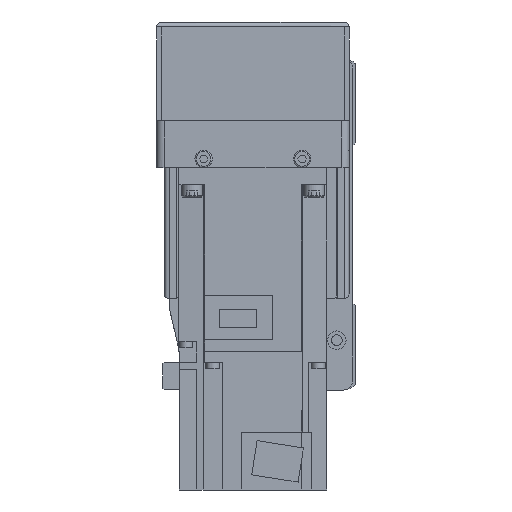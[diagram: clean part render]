
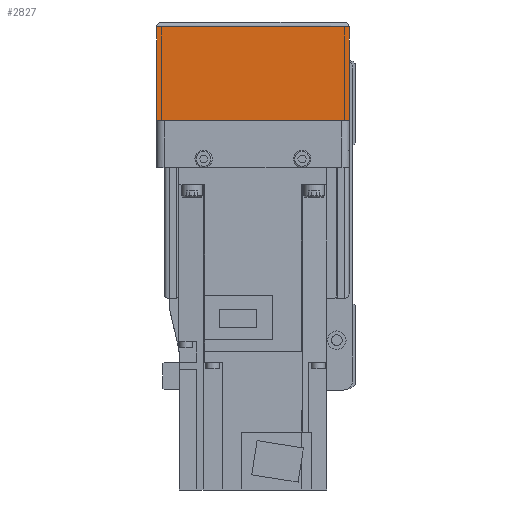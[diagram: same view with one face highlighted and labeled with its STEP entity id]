
A CAD part, left-side view. The second image highlights one B-rep face of the part: STEP entity #2827.
In plain terms, the highlighted planar face has unit normal (-1, 0, 0).
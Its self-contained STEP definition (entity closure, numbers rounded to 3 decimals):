
#2827 = ADVANCED_FACE( '', ( #5915 ), #5916, .F. );
#5915 = FACE_OUTER_BOUND( '', #9098, .T. );
#5916 = PLANE( '', #9099 );
#9098 = EDGE_LOOP( '', ( #17075, #17076, #17077, #17078 ) );
#9099 = AXIS2_PLACEMENT_3D( '', #17079, #17080, #17081 );
#17075 = ORIENTED_EDGE( '', *, *, #20479, .F. );
#17076 = ORIENTED_EDGE( '', *, *, #20946, .F. );
#17077 = ORIENTED_EDGE( '', *, *, #20089, .T. );
#17078 = ORIENTED_EDGE( '', *, *, #18438, .F. );
#17079 = CARTESIAN_POINT( '', ( -158., 36., 7. ) );
#17080 = DIRECTION( '', ( 1., 0., 0. ) );
#17081 = DIRECTION( '', ( 0., 0., -1. ) );
#18438 = EDGE_CURVE( '', #22067, #22069, #22070, .T. );
#20089 = EDGE_CURVE( '', #24724, #22069, #24730, .T. );
#20479 = EDGE_CURVE( '', #24430, #22067, #25265, .T. );
#20946 = EDGE_CURVE( '', #24724, #24430, #25868, .T. );
#22067 = VERTEX_POINT( '', #27325 );
#22069 = VERTEX_POINT( '', #27328 );
#22070 = LINE( '', #27329, #27330 );
#24430 = VERTEX_POINT( '', #30683 );
#24724 = VERTEX_POINT( '', #31164 );
#24730 = LINE( '', #31171, #31172 );
#25265 = LINE( '', #32100, #32101 );
#25868 = LINE( '', #32978, #32979 );
#27325 = CARTESIAN_POINT( '', ( -158., -39., -12.1 ) );
#27328 = CARTESIAN_POINT( '', ( -158., -39., -50. ) );
#27329 = CARTESIAN_POINT( '', ( -158., -39., -12.1 ) );
#27330 = VECTOR( '', #34151, 1000. );
#30683 = CARTESIAN_POINT( '', ( -158., 39., -12.1 ) );
#31164 = CARTESIAN_POINT( '', ( -158., 39., -50. ) );
#31171 = CARTESIAN_POINT( '', ( -158., 40., -50. ) );
#31172 = VECTOR( '', #36289, 1000. );
#32100 = CARTESIAN_POINT( '', ( -158., 50., -12.1 ) );
#32101 = VECTOR( '', #36679, 1000. );
#32978 = CARTESIAN_POINT( '', ( -158., 39., -50. ) );
#32979 = VECTOR( '', #37157, 1000. );
#34151 = DIRECTION( '', ( 0., 0., -1. ) );
#36289 = DIRECTION( '', ( 0., -1., 0. ) );
#36679 = DIRECTION( '', ( 0., -1., 0. ) );
#37157 = DIRECTION( '', ( 0., 0., 1. ) );
